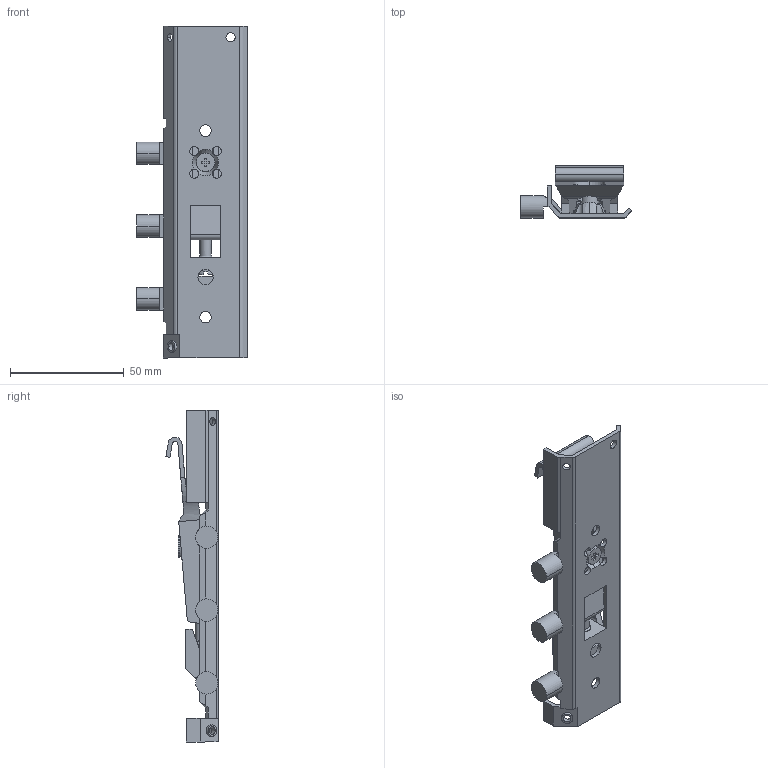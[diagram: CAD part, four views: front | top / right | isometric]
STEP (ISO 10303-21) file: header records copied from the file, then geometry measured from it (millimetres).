
FILE_DESCRIPTION (( 'STEP AP203' ), '1' );
FILE_NAME ('SH-6202_links_D8622011017~0.step', '2012-05-04T07:15:43', ( 'admin' ), ( 'Hewlett-Packard Company' ), 'SwSTEP 2.0', 'SolidWorks 2011', '' );
FILE_SCHEMA (( 'CONFIG_CONTROL_DESIGN' ));
Length unit declared in the file: millimetre
Products named in the file (1): SH-6202_links_D8622011017~0
Bounding box: 48.7 x 23 x 146 mm (x, y, z)
Volume: 26455.3 mm3; surface area: 22470.9 mm2
Topology: 1 solids, 1 shells, 268 faces, 796 edges, 518 vertices
Faces by surface type: plane 175, cylinder 80, cone 9, torus 4
Entity records: 9316 total; most frequent: CARTESIAN_POINT 2091, ORIENTED_EDGE 1588, DIRECTION 1435, EDGE_CURVE 794, VERTEX_POINT 516, VECTOR 479, LINE 479, AXIS2_PLACEMENT_3D 478
